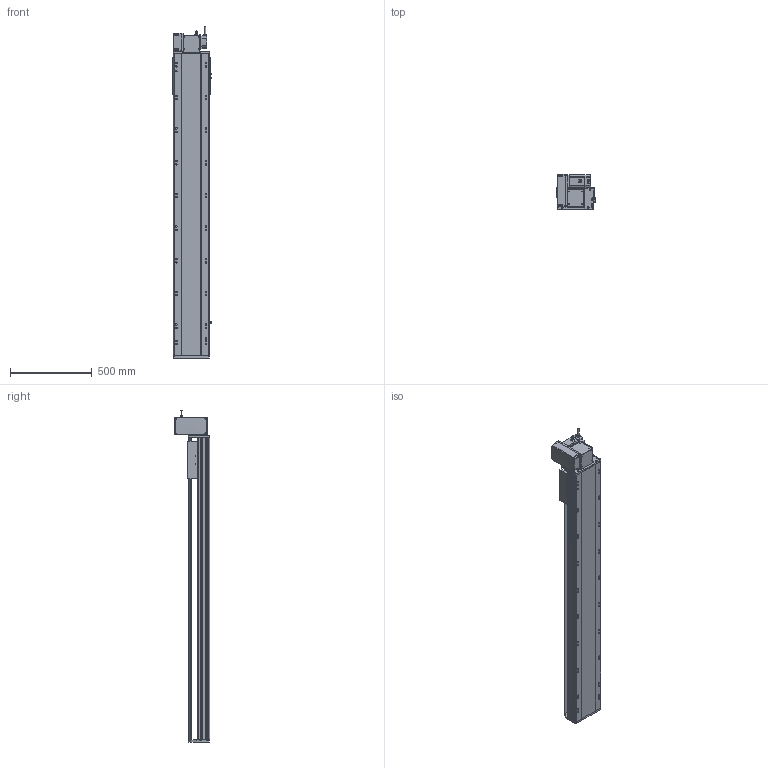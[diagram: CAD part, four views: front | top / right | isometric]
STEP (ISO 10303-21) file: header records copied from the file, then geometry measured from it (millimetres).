
FILE_DESCRIPTION (( 'STEP AP214' ), '1' );
FILE_NAME ('RTB22S-XX-1500-LW-M75-C4.STEP', '2025-12-12T05:57:49', ( '' ), ( '' ), 'SwSTEP 2.0', 'SolidWorks 2018', '' );
FILE_SCHEMA (( 'AUTOMOTIVE_DESIGN' ));
Length unit declared in the file: millimetre
Products named in the file (14): RTB22S-GY-001耜裔^RTB22S-XX-XX-LW-M75-C4; RTB22S-XX-1500-LW-M75-C4; RTB22S-GY-008-M75--萇儂啣^RTB22S-LW-々湍釱蚾饜_RTB22S-XX-XX-LW-M75-C4; RTB22S-LW-々湍釱蚾饜^RTB22S-XX-XX-LW-M75-C4; OMRON EE-SX672 传感器^RTB22S-XX-XX-LW-M75-C4; RTB22S-GY-014--々湍釱^RTB22S-LW-々湍釱蚾饜_RTB22S-XX-XX-LW-M75-C4; RTB22S-L-004賑釱^RTB22S-XX-XX-LW-M75-C4; RTB22S-GY-007奻裔^RTB22S-XX-XX-LW-M75-C4; RTB22S-GY-005P^RTB22S-LW-々湍釱蚾饜_RTB22S-XX-XX-LW-M75-C4; RTB22S-L-011菁釱^RTB22S-XX-XX-LW-M75-C4; 750W萇儂^RTB22S-XX-XX-LW-M75-C4; RTH22-GY-013外置感应片^RTB22S-XX-XX-LW-M75-C4; RTB22S-GY-017P^RTB22S-LW-々湍釱蚾饜_RTB22S-XX-XX-LW-M75-C4; RTB22S-GY-018P^RTB22S-LW-々湍釱蚾饜_RTB22S-XX-XX-LW-M75-C4
Assembly tree (16 placements, depth 3):
  RTB22S-XX-1500-LW-M75-C4
    RTB22S-L-011菁釱^RTB22S-XX-XX-LW-M75-C4
    RTB22S-GY-001耜裔^RTB22S-XX-XX-LW-M75-C4
    750W萇儂^RTB22S-XX-XX-LW-M75-C4
    RTB22S-GY-007奻裔^RTB22S-XX-XX-LW-M75-C4
    RTB22S-L-004賑釱^RTB22S-XX-XX-LW-M75-C4
    RTH22-GY-013外置感应片^RTB22S-XX-XX-LW-M75-C4
    OMRON EE-SX672 传感器^RTB22S-XX-XX-LW-M75-C4  x3
    RTB22S-LW-々湍釱蚾饜^RTB22S-XX-XX-LW-M75-C4
      RTB22S-GY-014--々湍釱^RTB22S-LW-々湍釱蚾饜_RTB22S-XX-XX-LW-M75-C4
      RTB22S-GY-017P^RTB22S-LW-々湍釱蚾饜_RTB22S-XX-XX-LW-M75-C4  x2
      RTB22S-GY-005P^RTB22S-LW-々湍釱蚾饜_RTB22S-XX-XX-LW-M75-C4
      RTB22S-GY-008-M75--萇儂啣^RTB22S-LW-々湍釱蚾饜_RTB22S-XX-XX-LW-M75-C4
      RTB22S-GY-018P^RTB22S-LW-々湍釱蚾饜_RTB22S-XX-XX-LW-M75-C4
Bounding box: 238.5 x 215.5 x 2032.2 mm (x, y, z)
Volume: 27112845.9 mm3; surface area: 2799232.4 mm2
Topology: 15 solids, 15 shells, 2019 faces, 5486 edges, 3512 vertices
Faces by surface type: plane 919, cylinder 646, bspline 296, cone 146, sphere 8, torus 4
Entity records: 54084 total; most frequent: CARTESIAN_POINT 15468, ORIENTED_EDGE 7744, DIRECTION 7486, EDGE_CURVE 3872, AXIS2_PLACEMENT_3D 2654, VERTEX_POINT 2516, LINE 2178, VECTOR 2178
